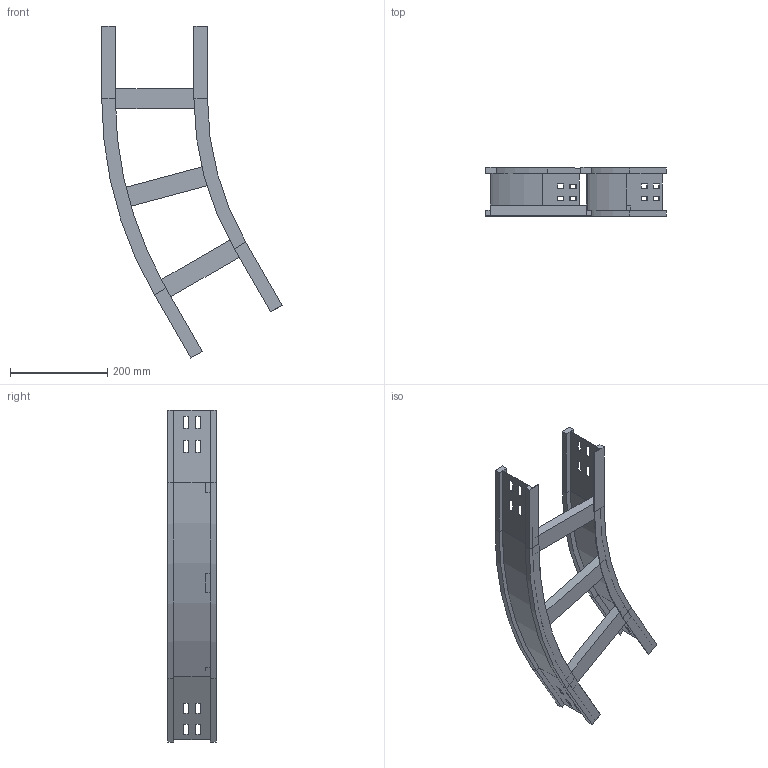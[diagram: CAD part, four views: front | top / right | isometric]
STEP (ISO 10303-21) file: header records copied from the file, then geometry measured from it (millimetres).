
FILE_DESCRIPTION (( 'STEP AP214' ), '1' );
FILE_NAME ('12S6D200.step', '2025-02-21T16:01:17', ( '' ), ( '' ), 'SwSTEP 2.0', 'SolidWorks 2023', '' );
FILE_SCHEMA (( 'AUTOMOTIVE_DESIGN' ));
Length unit declared in the file: millimetre
Products named in the file (4): LONGH.ESTERNO 30°_H100_R600+200; TRAVERSINO_200; LONGH.INTERNO30°_H100_R600; 12S6D200
Assembly tree (5 placements, depth 2):
  12S6D200
    LONGH.INTERNO30°_H100_R600
    LONGH.ESTERNO 30°_H100_R600+200
    TRAVERSINO_200  x3
Bounding box: 372.18 x 100 x 684.4 mm (x, y, z)
Volume: 1180153.6 mm3; surface area: 468836.4 mm2
Topology: 5 solids, 5 shells, 158 faces, 396 edges, 248 vertices
Faces by surface type: plane 146, cylinder 12
Entity records: 4477 total; most frequent: CARTESIAN_POINT 758, ORIENTED_EDGE 744, DIRECTION 704, EDGE_CURVE 372, VECTOR 348, LINE 348, VERTEX_POINT 232, EDGE_LOOP 178
